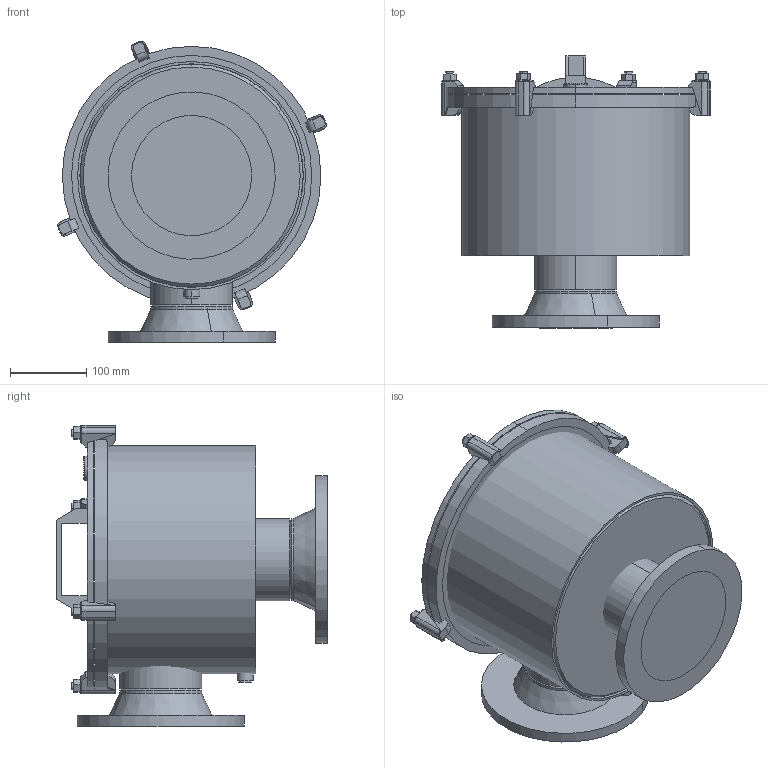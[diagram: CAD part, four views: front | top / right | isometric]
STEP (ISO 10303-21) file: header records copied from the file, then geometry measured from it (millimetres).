
FILE_DESCRIPTION((''),'2;1');
FILE_NAME('PRT0003','2012-07-24T',('LVVCSAVA'),('Copyright by Leybold GmbH'),'PRO/ENGINEER BY PARAMETRIC TECHNOLOGY CORPORATION, 2010430','PRO/ENGINEER BY PARAMETRIC TECHNOLOGY CORPORATION, 2010430','');
FILE_SCHEMA(('AUTOMOTIVE_DESIGN { 1 0 10303 214 1 1 1 1 }'));
Length unit declared in the file: millimetre
Products named in the file (1): PRT0003
Bounding box: 353.19 x 357.5 x 396.79 mm (x, y, z)
Surface area: 1133514.1 mm2 (no closed solid volume)
Topology: 0 solids, 36 shells, 211 faces, 642 edges, 452 vertices
Faces by surface type: plane 119, cylinder 62, cone 22, torus 8
Full cylindrical faces by diameter (mm): 294 x1, 300 x1
Entity records: 7099 total; most frequent: CARTESIAN_POINT 1329, DIRECTION 1230, ORIENTED_EDGE 1022, EDGE_CURVE 642, VECTOR 460, LINE 460, VERTEX_POINT 452, AXIS2_PLACEMENT_3D 385
